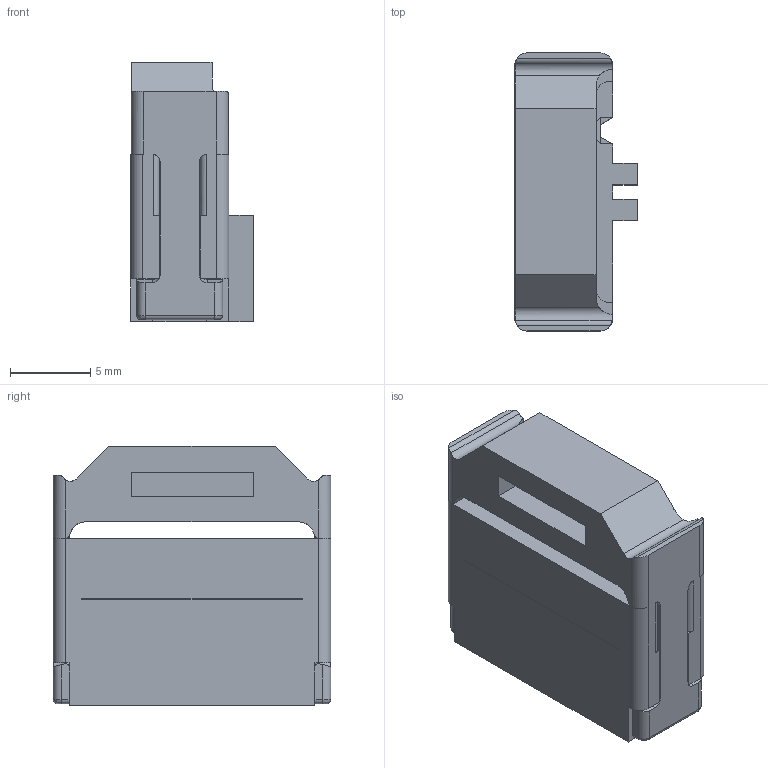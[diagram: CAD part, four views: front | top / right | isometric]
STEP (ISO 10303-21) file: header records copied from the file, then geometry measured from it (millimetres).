
FILE_DESCRIPTION(/* description */ (''),/* implementation_level */ '2;1');
FILE_NAME(/* name */ '3473-7610-01',/* time_stamp */ '2006-11-14T15:42:54-06:00',/* author */ (''),/* organization */ (''),/* preprocessor_version */ 'ST-DEVELOPER v9',/* originating_system */ 'UGS - NX 3.0',/* authorisation */ '');
FILE_SCHEMA (('CONFIG_CONTROL_DESIGN'));
Length unit declared in the file: inch
Products named in the file (1): a0ttD301q6d1
Bounding box: 7.62 x 17.27 x 16.13 mm (x, y, z)
Volume: 1307.7 mm3; surface area: 1541.5 mm2
Topology: 1 solids, 1 shells, 241 faces, 688 edges, 442 vertices
Faces by surface type: plane 162, cylinder 61, bspline 14, torus 4
Entity records: 8798 total; most frequent: CARTESIAN_POINT 2634, ORIENTED_EDGE 1376, DIRECTION 1104, EDGE_CURVE 688, LINE 500, VECTOR 500, VERTEX_POINT 442, AXIS2_PLACEMENT_3D 302
